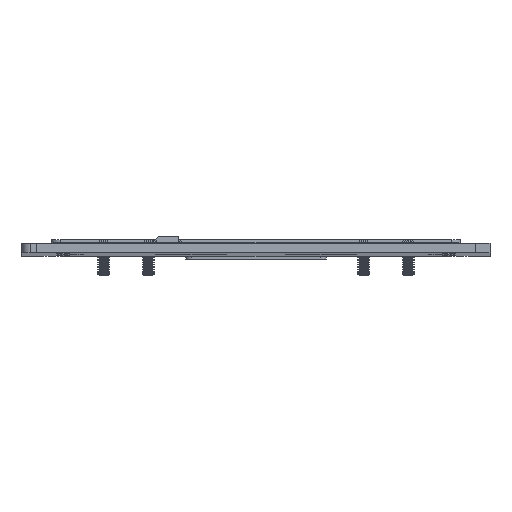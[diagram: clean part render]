
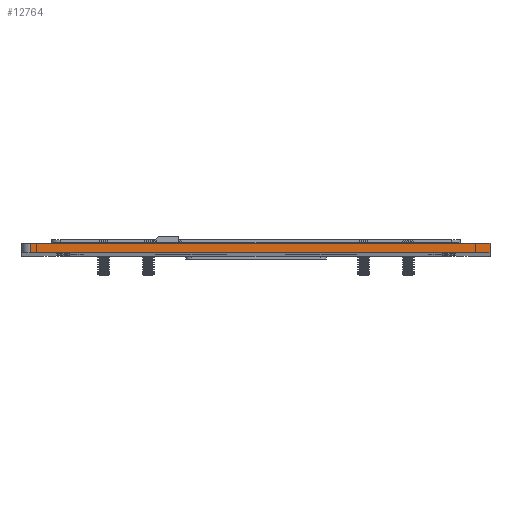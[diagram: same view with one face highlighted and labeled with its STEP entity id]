
A CAD part, top view. The second image highlights one B-rep face of the part: STEP entity #12764.
In plain terms, the highlighted planar face has unit normal (0, 0, 1).
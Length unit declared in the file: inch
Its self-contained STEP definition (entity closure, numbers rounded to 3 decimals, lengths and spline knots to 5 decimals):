
#1605 = VERTEX_POINT ( 'NONE', #3704 ) ;
#2007 = VERTEX_POINT ( 'NONE', #22550 ) ;
#2085 = PLANE ( 'NONE',  #18349 ) ;
#2917 = VECTOR ( 'NONE', #17627, 39.37008 ) ;
#3704 = CARTESIAN_POINT ( 'NONE',  ( 1.5748, 0.031, 7.09 ) ) ;
#4014 = VECTOR ( 'NONE', #14094, 39.37008 ) ;
#4082 = VECTOR ( 'NONE', #28639, 39.37008 ) ;
#5543 = ORIENTED_EDGE ( 'NONE', *, *, #18557, .T. ) ;
#5592 = CARTESIAN_POINT ( 'NONE',  ( -1.51575, 0.031, 7.09 ) ) ;
#5673 = EDGE_CURVE ( 'NONE', #22562, #2007, #18299, .T. ) ;
#7903 = CARTESIAN_POINT ( 'NONE',  ( 1.5748, -0.031, 7.09 ) ) ;
#9657 = LINE ( 'NONE', #12734, #16387 ) ;
#11069 = ORIENTED_EDGE ( 'NONE', *, *, #14945, .T. ) ;
#11557 = CARTESIAN_POINT ( 'NONE',  ( 1.5748, -0.15861, 7.09 ) ) ;
#12734 = CARTESIAN_POINT ( 'NONE',  ( -1.5748, -0.031, 7.09 ) ) ;
#12764 = ADVANCED_FACE ( 'NONE', ( #14119 ), #2085, .F. ) ;
#14094 = DIRECTION ( 'NONE',  ( 0., 1., 0. ) ) ;
#14119 = FACE_OUTER_BOUND ( 'NONE', #24480, .T. ) ;
#14764 = CARTESIAN_POINT ( 'NONE',  ( 1.5998, 0.125, 7.09 ) ) ;
#14945 = EDGE_CURVE ( 'NONE', #25573, #1605, #24170, .T. ) ;
#16365 = LINE ( 'NONE', #22582, #2917 ) ;
#16387 = VECTOR ( 'NONE', #30366, 39.37008 ) ;
#17318 = DIRECTION ( 'NONE',  ( -1., 0., 0. ) ) ;
#17627 = DIRECTION ( 'NONE',  ( 1., 0., 0. ) ) ;
#18299 = LINE ( 'NONE', #31130, #4082 ) ;
#18349 = AXIS2_PLACEMENT_3D ( 'NONE', #14764, #32400, #17318 ) ;
#18557 = EDGE_CURVE ( 'NONE', #2007, #25573, #9657, .T. ) ;
#22550 = CARTESIAN_POINT ( 'NONE',  ( -1.51575, -0.031, 7.09 ) ) ;
#22562 = VERTEX_POINT ( 'NONE', #5592 ) ;
#22582 = CARTESIAN_POINT ( 'NONE',  ( -1.5748, 0.031, 7.09 ) ) ;
#23802 = ORIENTED_EDGE ( 'NONE', *, *, #29989, .F. ) ;
#24170 = LINE ( 'NONE', #11557, #4014 ) ;
#24480 = EDGE_LOOP ( 'NONE', ( #5543, #11069, #23802, #27133 ) ) ;
#25573 = VERTEX_POINT ( 'NONE', #7903 ) ;
#27133 = ORIENTED_EDGE ( 'NONE', *, *, #5673, .T. ) ;
#28639 = DIRECTION ( 'NONE',  ( 0., -1., 0. ) ) ;
#29989 = EDGE_CURVE ( 'NONE', #22562, #1605, #16365, .T. ) ;
#30366 = DIRECTION ( 'NONE',  ( 1., 0., 0. ) ) ;
#31130 = CARTESIAN_POINT ( 'NONE',  ( -1.51575, 0.031, 7.09 ) ) ;
#32400 = DIRECTION ( 'NONE',  ( 0., 0., -1. ) ) ;
